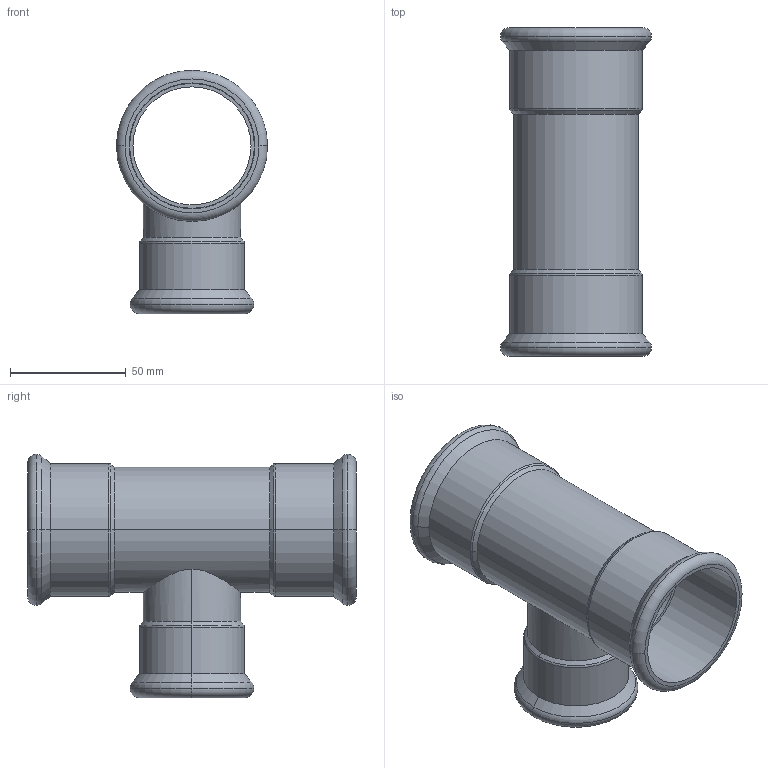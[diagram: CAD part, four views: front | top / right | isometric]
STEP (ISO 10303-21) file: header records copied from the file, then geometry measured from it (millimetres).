
FILE_DESCRIPTION(('CoCreate Modeling STEP Export'),'2;1');
FILE_NAME('C1415 54x42x54.stp','2014-11-12T10:47:08',(''),(''),'CoCreate Modeling STEP processor for AP214 (Solid Model)','CoCreate Modeling 17.00A 17-Jun-2010 (C) Parametric Technology GmbH','');
FILE_SCHEMA(('AUTOMOTIVE_DESIGN { 1 0 10303 214 1 1 1 1 }'));
Length unit declared in the file: millimetre
Products named in the file (2): C1415_54x42x54
Assembly tree (1 placements, depth 2):
  C1415_54x42x54
    C1415_54x42x54
Bounding box: 65.3 x 142 x 105.15 mm (x, y, z)
Volume: 61820.5 mm3; surface area: 66233 mm2
Topology: 1 solids, 1 shells, 66 faces, 135 edges, 79 vertices
Faces by surface type: cylinder 27, torus 18, cone 12, plane 9
Entity records: 2755 total; most frequent: CARTESIAN_POINT 1528, ORIENTED_EDGE 270, DIRECTION 218, EDGE_CURVE 135, AXIS2_PLACEMENT_3D 90, VERTEX_POINT 79, EDGE_LOOP 76, FACE_OUTER_BOUND 66
